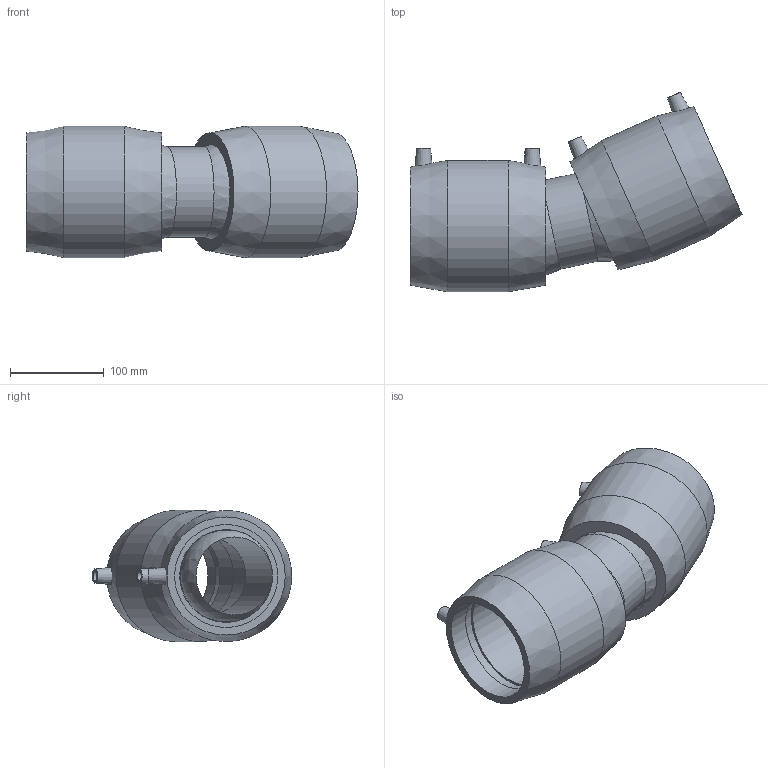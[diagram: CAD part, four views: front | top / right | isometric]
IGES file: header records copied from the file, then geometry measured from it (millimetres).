
Global section: file name: 4947C4110.ipt; native system: Autodesk Inventor 2015; preprocessor: unknown; author: KIM; date: 20190124.130435; units: millimetre
Bounding box: 354.09 x 212.8 x 140 mm (x, y, z)
Volume: 1954497.1 mm3; surface area: 300590.9 mm2
Topology: 1 solids, 1 shells, 50 faces, 114 edges, 78 vertices
Faces by surface type: plane 20, revolution 13, cone 8, cylinder 7, sphere 2
Full cylindrical faces by diameter (mm): 4 x4, 96.324 x1, 140 x2
